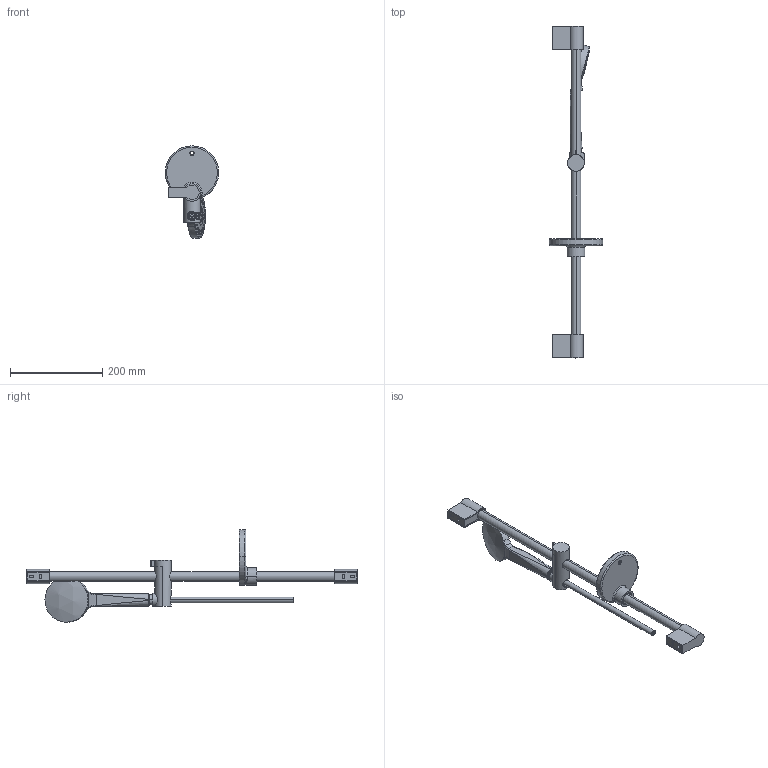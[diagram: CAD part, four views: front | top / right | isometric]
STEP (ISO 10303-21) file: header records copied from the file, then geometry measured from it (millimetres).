
FILE_DESCRIPTION((''),'2;1');
FILE_NAME('F2679CR_FILE_3D','2017-01-25T',('ivanv'),(''),'CREO PARAMETRIC BY PTC INC, 2015290','CREO PARAMETRIC BY PTC INC, 2015290','');
FILE_SCHEMA(('CONFIG_CONTROL_DESIGN'));
Length unit declared in the file: millimetre
Products named in the file (1): F2679CR_FILE_3D
Bounding box: 116 x 720 x 200.15 mm (x, y, z)
Volume: 747188.4 mm3; surface area: 181784.1 mm2
Topology: 4 solids, 4 shells, 619 faces, 1491 edges, 989 vertices
Faces by surface type: cylinder 225, plane 215, cone 111, torus 39, bspline 20, sphere 6, extrusion 3
Entity records: 26282 total; most frequent: CARTESIAN_POINT 11755, DIRECTION 3063, ORIENTED_EDGE 2966, EDGE_CURVE 1483, AXIS2_PLACEMENT_3D 1295, VERTEX_POINT 989, EDGE_LOOP 744, CIRCLE 699
